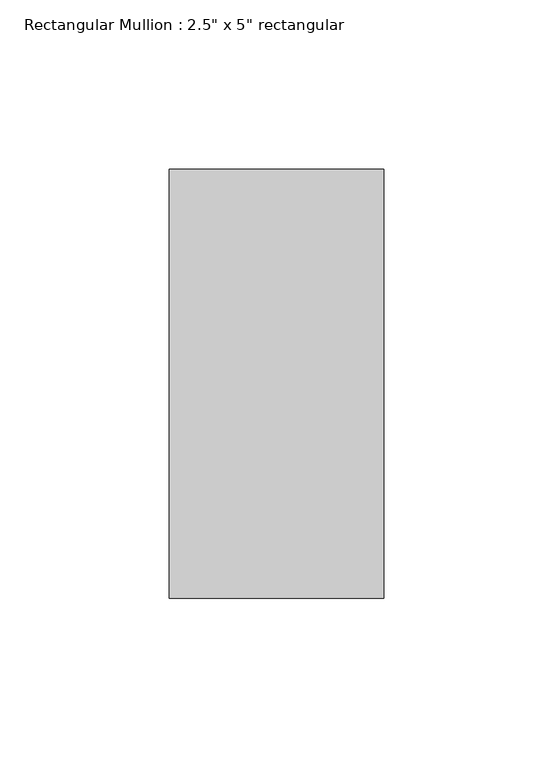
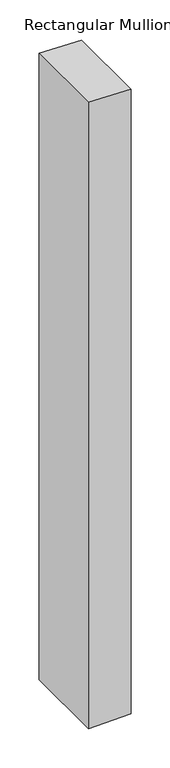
"""IFC4 building model written with IfcOpenShell, lengths in millimetres: member geometry."""

from ifc_helpers import new_model, si_unit, frame, origin, place, context, project, spatial, polyline, outline, extrude, source, transform, mapped, element, save


def member_f68024c3(model_context):
    return source(origin(), model_context, "Body", "SweptSolid", [
        extrude(outline(polyline([(0.0, 0.0), (1.868213, -63.5), (-978.7681263, -63.5), (-977.3118044, 0.0), (0.0, 0.0)])), frame((0.0, -63.5, 0.0), z_axis=(0.0, 1.0, 0.0), x_axis=(0.0, 0.0, 1.0)), (0.0, 0.0, 1.0), 127.0),
    ])


if __name__ == "__main__":
    model = new_model("IFC4")
    model_context = context("Model", 3, world=origin())
    ifc_project = project(units=[si_unit("LENGTHUNIT", "METRE", prefix="MILLI")], contexts=[model_context])
    site = spatial("IfcSite", under=ifc_project)
    building = spatial("IfcBuilding", under=site)
    placement = place(None, origin())
    member_shape = member_f68024c3(model_context)
    element("IfcMember", 1, ObjectType="Rectangular Mullion : 2.5\" x 5\" rectangular", at=placement, inside=building, context=model_context, shape_type="MappedRepresentation", body=[
        mapped(member_shape, transform((0.0, 0.0, 0.0), x_axis=(1.0, 0.0, 0.0), y_axis=(0.0, 1.0, 0.0), z_axis=(0.0, 0.0, 1.0))),
    ])
    save(model, "model.ifc")
